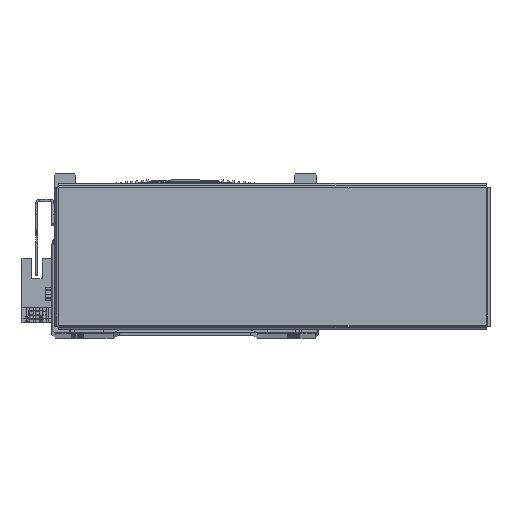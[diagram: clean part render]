
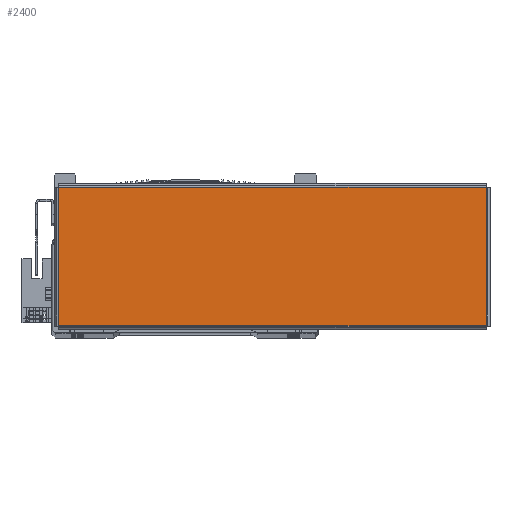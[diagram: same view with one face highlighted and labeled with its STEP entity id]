
A CAD part, top view. The second image highlights one B-rep face of the part: STEP entity #2400.
In plain terms, the highlighted planar face has unit normal (0, 0, 1) as drawn and (0, 0, -1) by its records, which use the part's own axes.
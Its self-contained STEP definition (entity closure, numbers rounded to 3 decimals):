
#2400 = ADVANCED_FACE ( 'NONE', ( #44755 ), #43169, .F. ) ;
#4383 = EDGE_CURVE ( 'NONE', #77087, #77091, #81776, .T. ) ;
#4402 = EDGE_CURVE ( 'NONE', #77037, #77087, #81860, .T. ) ;
#4423 = EDGE_CURVE ( 'NONE', #77091, #77055, #81854, .T. ) ;
#4504 = EDGE_CURVE ( 'NONE', #77055, #77037, #81997, .T. ) ;
#24807 = ORIENTED_EDGE ( 'NONE', *, *, #4423, .T. ) ;
#24814 = ORIENTED_EDGE ( 'NONE', *, *, #4504, .T. ) ;
#24840 = ORIENTED_EDGE ( 'NONE', *, *, #4383, .T. ) ;
#34561 = EDGE_LOOP ( 'NONE', ( #24840, #24807, #24814, #70661 ) ) ;
#43160 = DIRECTION ( 'NONE',  ( 0., 0., 1. ) ) ;
#43169 = PLANE ( 'NONE',  #59103 ) ;
#43173 = CARTESIAN_POINT ( 'NONE',  ( 0., 0., -1. ) ) ;
#43184 = DIRECTION ( 'NONE',  ( 1., 0., 0. ) ) ;
#44755 = FACE_OUTER_BOUND ( 'NONE', #34561, .T. ) ;
#59103 = AXIS2_PLACEMENT_3D ( 'NONE', #43173, #43160, #43184 ) ;
#70661 = ORIENTED_EDGE ( 'NONE', *, *, #4402, .T. ) ;
#77037 = VERTEX_POINT ( 'NONE', #80154 ) ;
#77055 = VERTEX_POINT ( 'NONE', #80190 ) ;
#77087 = VERTEX_POINT ( 'NONE', #80104 ) ;
#77091 = VERTEX_POINT ( 'NONE', #80112 ) ;
#80104 = CARTESIAN_POINT ( 'NONE',  ( 97.863, 31.763, -1. ) ) ;
#80112 = CARTESIAN_POINT ( 'NONE',  ( 97.863, -31.763, -1. ) ) ;
#80154 = CARTESIAN_POINT ( 'NONE',  ( -97.863, 31.763, -1. ) ) ;
#80190 = CARTESIAN_POINT ( 'NONE',  ( -97.863, -31.763, -1. ) ) ;
#81776 = LINE ( 'NONE', #85379, #81807 ) ;
#81807 = VECTOR ( 'NONE', #85381, 1000. ) ;
#81826 = VECTOR ( 'NONE', #85613, 1000. ) ;
#81849 = VECTOR ( 'NONE', #85693, 1000. ) ;
#81854 = LINE ( 'NONE', #85705, #81849 ) ;
#81860 = LINE ( 'NONE', #85602, #81826 ) ;
#81997 = LINE ( 'NONE', #85994, #81998 ) ;
#81998 = VECTOR ( 'NONE', #85987, 1000. ) ;
#85379 = CARTESIAN_POINT ( 'NONE',  ( 97.863, 31.793, -1. ) ) ;
#85381 = DIRECTION ( 'NONE',  ( 0., -1., 0. ) ) ;
#85602 = CARTESIAN_POINT ( 'NONE',  ( -97.893, 31.763, -1. ) ) ;
#85613 = DIRECTION ( 'NONE',  ( 1., 0., 0. ) ) ;
#85693 = DIRECTION ( 'NONE',  ( -1., 0., 0. ) ) ;
#85705 = CARTESIAN_POINT ( 'NONE',  ( 97.893, -31.763, -1. ) ) ;
#85987 = DIRECTION ( 'NONE',  ( 0., 1., 0. ) ) ;
#85994 = CARTESIAN_POINT ( 'NONE',  ( -97.863, -31.793, -1. ) ) ;
